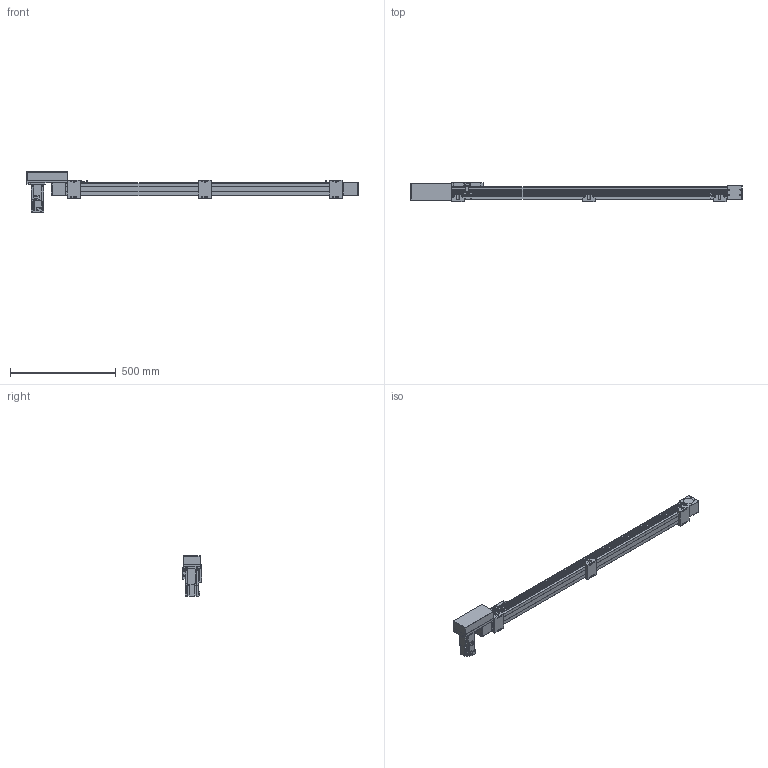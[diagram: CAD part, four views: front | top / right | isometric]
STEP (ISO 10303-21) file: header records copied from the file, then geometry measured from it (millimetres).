
FILE_DESCRIPTION(/* description */ ('STEP AP214'),/* implementation_level */ '2;1');
FILE_NAME(/* name */ 'SK60-P13-S1150-R-T40-C1-N(0)',/* time_stamp */ '2023-04-06T04:27:24+02:00',/* author */ ('License CC BY-ND 4.0'),/* organization */ ('CADENAS'),/* preprocessor_version */ 'ST-DEVELOPER v19.3',/* originating_system */ 'PARTsolutions',/* authorisation */ ' ');
FILE_SCHEMA (('AUTOMOTIVE_DESIGN {1 0 10303 214 3 1 1}'));
Length unit declared in the file: millimetre
Products named in the file (10): SK60-P13-S1150-R-T40-C1-N(0); PSC140-sensor; SK60-S450_seat; SK60-S450-BL-C1_slider; SK60_body3; SK60_body6; SK60-BL_body2; T40-p1; SK60-R_fb; SK60-S1150-R-C1_body
Assembly tree (17 placements, depth 2):
  SK60-P13-S1150-R-T40-C1-N(0)
    PSC140-sensor  x3
    SK60-S450_seat  x3
    SK60-S450-BL-C1_slider
    SK60_body3  x3
    SK60_body6  x2
    SK60-BL_body2  x2
    T40-p1
    SK60-R_fb
    SK60-S1150-R-C1_body
Bounding box: 1570.5 x 90 x 189.7 mm (x, y, z)
Volume: 6155299.9 mm3; surface area: 767453 mm2
Topology: 17 solids, 17 shells, 854 faces, 2146 edges, 1413 vertices
Faces by surface type: plane 548, cylinder 278, cone 26, torus 2
Full cylindrical faces by diameter (mm): 2.8 x3, 3.3 x4, 4 x2, 4.5 x30, 4.6 x3, 4.917 x20, 5 x6, 5.478 x4, 5.5 x23, 6.5 x6, 7 x2, 8 x4, 8.5 x4, 9.988 x4, 10 x12, 14 x1, 47 x3, 50 x2
Entity records: 18663 total; most frequent: DIRECTION 3186, CARTESIAN_POINT 3151, ORIENTED_EDGE 2940, EDGE_CURVE 1470, AXIS2_PLACEMENT_3D 1069, LINE 1048, VECTOR 1048, VERTEX_POINT 1034
